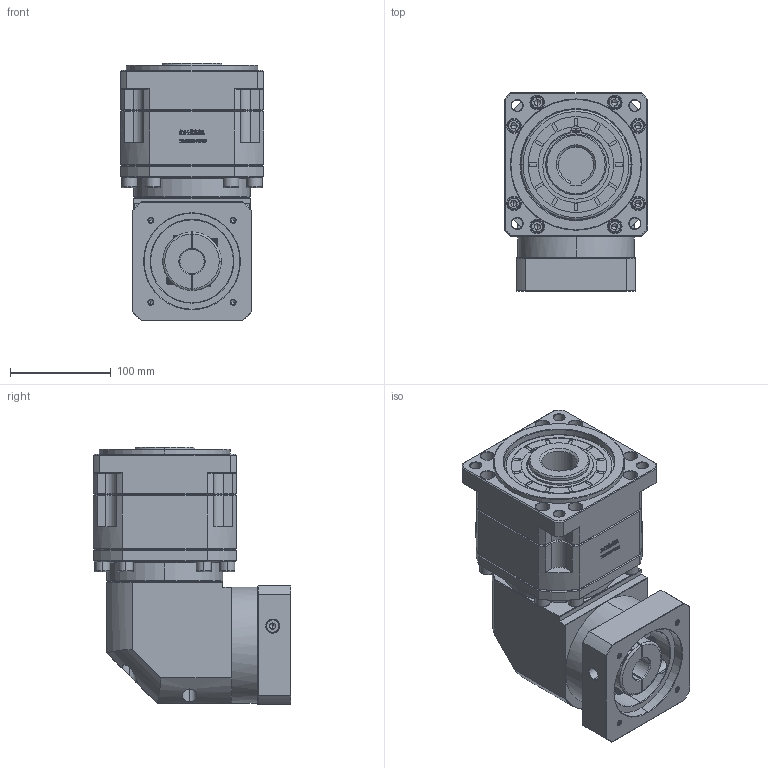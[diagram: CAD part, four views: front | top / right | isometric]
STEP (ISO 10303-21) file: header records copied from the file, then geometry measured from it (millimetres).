
FILE_DESCRIPTION (( 'STEP AP214' ), '1' );
FILE_NAME ('ZBR142A-K35-L2-24-95-115-M6.step', '2023-03-20T04:15:43', ( '' ), ( '' ), 'SwSTEP 2.0', 'SolidWorks 2016', '' );
FILE_SCHEMA (( 'AUTOMOTIVE_DESIGN' ));
Length unit declared in the file: millimetre
Products named in the file (1): ZBR142A-K35-L2-24-95-115-M6
Bounding box: 142 x 195.9 x 255.2 mm (x, y, z)
Volume: 4135125.8 mm3; surface area: 303376.9 mm2
Topology: 6 solids, 6 shells, 3119 faces, 8218 edges, 5265 vertices
Faces by surface type: plane 1644, bspline 589, cylinder 450, cone 392, torus 44
Entity records: 164409 total; most frequent: CARTESIAN_POINT 57453, ORIENTED_EDGE 16332, DIRECTION 12818, EDGE_CURVE 8166, LINE 5510, VECTOR 5510, VERTEX_POINT 5265, AXIS2_PLACEMENT_3D 3654
